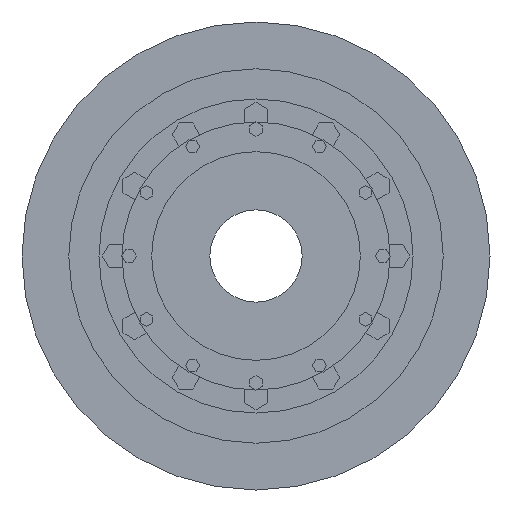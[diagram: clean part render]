
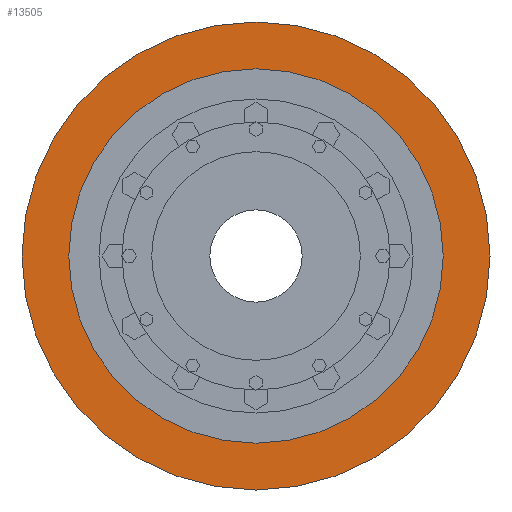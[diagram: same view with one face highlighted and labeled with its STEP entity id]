
A CAD part, left-side view. The second image highlights one B-rep face of the part: STEP entity #13505.
In plain terms, the highlighted planar face has unit normal (-1, 0, 0).
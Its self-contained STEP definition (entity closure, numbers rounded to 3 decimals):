
#13302=CARTESIAN_POINT('',(-6.35,0.,0.));
#13303=DIRECTION('',(-1.,0.,0.));
#13304=DIRECTION('',(0.,1.,0.));
#13305=AXIS2_PLACEMENT_3D('',#13302,#13303,#13304);
#13307=CARTESIAN_POINT('',(-6.35,0.,0.));
#13308=DIRECTION('',(1.,0.,0.));
#13309=DIRECTION('',(0.,1.,0.));
#13310=AXIS2_PLACEMENT_3D('',#13307,#13308,#13309);
#13312=CARTESIAN_POINT('',(-6.35,0.,0.));
#13313=DIRECTION('',(1.,0.,0.));
#13314=DIRECTION('',(0.,1.,0.));
#13315=AXIS2_PLACEMENT_3D('',#13312,#13313,#13314);
#13325=CARTESIAN_POINT('',(-6.35,0.,0.));
#13326=DIRECTION('',(-1.,0.,0.));
#13327=DIRECTION('',(0.,1.,0.));
#13328=AXIS2_PLACEMENT_3D('',#13325,#13326,#13327);
#13348=CARTESIAN_POINT('',(-6.35,324.8,0.));
#13350=VERTEX_POINT('',#13348);
#13360=CARTESIAN_POINT('',(-6.35,-324.8,0.));
#13362=VERTEX_POINT('',#13360);
#13365=CARTESIAN_POINT('',(-6.35,406.,0.));
#13367=VERTEX_POINT('',#13365);
#13369=CARTESIAN_POINT('',(-6.35,-406.,0.));
#13371=VERTEX_POINT('',#13369);
#13490=CARTESIAN_POINT('',(-6.35,0.,0.));
#13491=DIRECTION('',(1.,0.,0.));
#13492=DIRECTION('',(0.,-1.,0.));
#13493=AXIS2_PLACEMENT_3D('',#13490,#13491,#13492);
#13494=PLANE('',#13493);
#13495=ORIENTED_EDGE('',*,*,#13483,.F.);
#13496=ORIENTED_EDGE('',*,*,#13472,.T.);
#13497=EDGE_LOOP('',(#13495,#13496));
#13498=FACE_OUTER_BOUND('',#13497,.F.);
#13500=ORIENTED_EDGE('',*,*,#13499,.F.);
#13502=ORIENTED_EDGE('',*,*,#13501,.T.);
#13503=EDGE_LOOP('',(#13500,#13502));
#13504=FACE_BOUND('',#13503,.F.);
#13505=ADVANCED_FACE('',(#13498,#13504),#13494,.F.);
#13306=CIRCLE('',#13305,406.);
#13311=CIRCLE('',#13310,406.);
#13316=CIRCLE('',#13315,324.8);
#13329=CIRCLE('',#13328,324.8);
#13472=EDGE_CURVE('',#13367,#13371,#13311,.T.);
#13483=EDGE_CURVE('',#13367,#13371,#13306,.T.);
#13499=EDGE_CURVE('',#13350,#13362,#13316,.T.);
#13501=EDGE_CURVE('',#13350,#13362,#13329,.T.);
